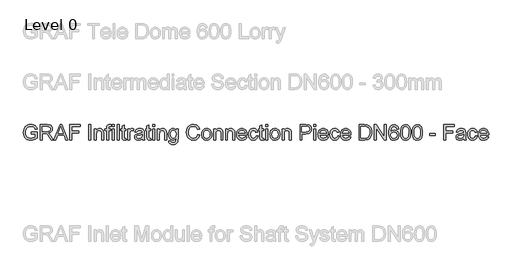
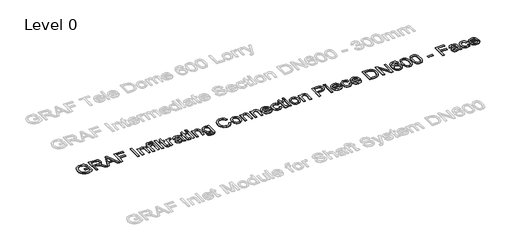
# One storey, part 16 of 25: 1 proxy.
"""IFC4 building model written with IfcOpenShell, lengths in millimetres."""

from ifc_helpers import new_model, si_unit, origin, origin_with_axes, place, context, project, spatial, polyline, outline, extrude, element, save

model = new_model("IFC4")

# Units and contexts
model_context = context("Model", 3, world=origin())
ifc_project = project(units=[si_unit("LENGTHUNIT", "METRE", prefix="MILLI")], contexts=[model_context])

# Site, building, storey
site = spatial("IfcSite", under=ifc_project)
building = spatial("IfcBuilding", under=site)
storey = spatial("IfcBuildingStorey", under=building, Name="Level 0", Elevation=0.0)

# Proxy
placement = place(None, origin())
element("IfcBuildingElementProxy", 1, Name="300mm Arial", ObjectType="300mm Arial", at=placement, inside=storey, context=model_context, shape_type="SweptSolid", body=[
    extrude(outline(polyline([(-15240.9940387, 2916.7454403), (-15240.9940387, 2954.4165566), (-15118.5629107, 2954.4165566), (-15118.5629107, 2841.7710897), (-15148.3153671, 2821.0777274), (-15179.0059225, 2806.2336889), (-15210.5610007, 2797.2941564), (-15242.9070251, 2794.3143123), (-15285.1674693, 2799.050793), (-15323.3628175, 2813.260235), (-15355.0926395, 2836.4459978), (-15377.9565055, 2868.1114405), (-15391.7796715, 2906.0952565), (-15396.3873935, 2948.2361391), (-15391.7980656, 2990.6805243), (-15378.0300819, 3030.1634594), (-15355.6536596, 3063.282036), (-15325.2390156, 3086.6333457), (-15288.1932987, 3100.4841028), (-15245.9236575, 3105.1010218), (-15214.8928112, 3102.4246803), (-15186.9889618, 3094.3956557), (-15163.4904994, 3081.5933623), (-15145.6758138, 3064.5972141), (-15132.4964413, 3042.5886738), (-15122.9039183, 3014.7492038), (-15157.6319786, 3004.9635427), (-15165.3850917, 3024.8199734), (-15174.8120678, 3039.8019677), (-15187.2832674, 3051.0959449), (-15204.169051, 3059.8883246), (-15224.3013932, 3065.5445103), (-15246.5122687, 3067.4299055), (-15272.5123287, 3065.3973575), (-15294.7415982, 3059.2997134), (-15313.1173039, 3049.9003284), (-15327.5566722, 3037.9625577), (-15346.9440533, 3008.9366683), (-15355.7732212, 2980.49939), (-15358.7162772, 2949.7812434), (-15355.175413, 2913.7563991), (-15344.5528204, 2884.1143073), (-15327.1703961, 2861.0665003), (-15303.3500369, 2844.8245102), (-15275.4737787, 2835.195199), (-15245.9236575, 2831.9854286), (-15219.831627, 2834.4042527), (-15194.3833899, 2841.6607251), (-15172.2828791, 2851.6579183), (-15156.234027, 2862.298905), (-15156.234027, 2916.7454403), (-15240.9940387, 2916.7454403)])), origin_with_axes(), (0.0, 0.0, 1.0), 10.0),
    extrude(outline(polyline([(-15057.3473467, 2799.0232018), (-15057.3473467, 3100.3921323), (-14927.4850024, 3100.3921323), (-14892.5821982, 3098.3595842), (-14867.1891434, 3092.2619402), (-14848.6294968, 3081.0047511), (-14834.2269167, 3063.4935682), (-14824.9838815, 3041.7793334), (-14821.9028698, 3017.912989), (-14827.0072325, 2988.2249119), (-14842.3203206, 2963.6136065), (-14853.9200997, 2953.5842236), (-14868.3019865, 2945.5689946), (-14905.4120827, 2935.5809984), (-14884.0013506, 2919.467767), (-14853.467145, 2880.6930048), (-14803.2144645, 2799.0232018), (-14846.9924219, 2799.0232018), (-14886.2086426, 2861.4895646), (-14914.5355562, 2902.8395009), (-14934.4379722, 2922.3740348), (-14952.3538253, 2929.5477337), (-14974.2060158, 2930.8721089), (-15019.6762304, 2930.8721089), (-15019.6762304, 2799.0232018), (-15057.3473467, 2799.0232018)]), holes=[polyline([(-15019.6762304, 2968.5432252), (-14935.3576771, 2968.5432252), (-14911.1418448, 2969.8767974), (-14892.3522719, 2973.8775141), (-14878.2072092, 2980.8120897), (-14867.9249074, 2990.9472387), (-14861.6617165, 3003.2069062), (-14859.5739861, 3016.5150374), (-14863.5563087, 3034.890743), (-14875.5032765, 3049.6979933), (-14896.058683, 3059.4652603), (-14925.8663217, 3062.721016), (-15019.6762304, 3062.721016), (-15019.6762304, 2968.5432252)])]), origin_with_axes(), (0.0, 0.0, 1.0), 10.0),
    extrude(outline(polyline([(-14791.0743586, 2799.0232018), (-14670.7769462, 3100.3921323), (-14638.6976362, 3100.3921323), (-14518.4002238, 2799.0232018), (-14558.2050557, 2799.0232018), (-14592.7123868, 2893.2009926), (-14716.835772, 2893.2009926), (-14751.2695268, 2799.0232018), (-14791.0743586, 2799.0232018)]), holes=[polyline([(-14703.003409, 2930.8721089), (-14606.4711735, 2930.8721089), (-14633.6208647, 3004.9635427), (-14654.7372912, 3062.721016), (-14673.499273, 3011.4382658), (-14703.003409, 2930.8721089)])]), origin_with_axes(), (0.0, 0.0, 1.0), 10.0),
    extrude(outline(polyline([(-14478.1539335, 2799.0232018), (-14478.1539335, 3100.3921323), (-14275.6716834, 3100.3921323), (-14275.6716834, 3062.721016), (-14440.4828172, 3062.721016), (-14440.4828172, 2973.2521147), (-14299.2161311, 2973.2521147), (-14299.2161311, 2935.5809984), (-14440.4828172, 2935.5809984), (-14440.4828172, 2799.0232018), (-14478.1539335, 2799.0232018)])), origin_with_axes(), (0.0, 0.0, 1.0), 10.0),
    extrude(outline(polyline([(-14101.4427705, 2799.0232018), (-14101.4427705, 3100.3921323), (-14063.7716542, 3100.3921323), (-14063.7716542, 2799.0232018), (-14101.4427705, 2799.0232018)])), origin_with_axes(), (0.0, 0.0, 1.0), 10.0),
    extrude(outline(polyline([(-13993.1383111, 2799.0232018), (-13993.1383111, 3020.3410101), (-13955.4671948, 3020.3410101), (-13955.4671948, 2989.4389225), (-13942.3797928, 3005.018725), (-13926.6620346, 3016.1471554), (-13908.3139201, 3022.8242136), (-13887.3354493, 3025.0498997), (-13868.7666056, 3023.2564749), (-13851.7612603, 3017.8762008), (-13837.5794094, 3009.5804618), (-13827.4810487, 2999.0406426), (-13816.1870714, 2971.3391284), (-13814.2005086, 2934.9188108), (-13814.2005086, 2799.0232018), (-13851.8716249, 2799.0232018), (-13851.8716249, 2929.8420393), (-13856.2126325, 2963.1721481), (-13862.2183061, 2973.0957649), (-13871.5533117, 2980.7936956), (-13883.5186736, 2985.7325114), (-13897.415416, 2987.3787834), (-13919.4791386, 2983.6815693), (-13938.2871056, 2972.5899271), (-13945.8033946, 2963.5354315), (-13951.1721725, 2951.1608009), (-13955.4671948, 2916.4511347), (-13955.4671948, 2799.0232018), (-13993.1383111, 2799.0232018)])), origin_with_axes(), (0.0, 0.0, 1.0), 10.0),
    extrude(outline(polyline([(-13752.9849446, 2799.0232018), (-13752.9849446, 2982.6698938), (-13785.9471714, 2982.6698938), (-13785.9471714, 3020.3410101), (-13752.9849446, 3020.3410101), (-13752.9849446, 3042.634659), (-13749.0118191, 3074.0517814), (-13741.43345, 3086.5781634), (-13729.7348025, 3096.4925831), (-13713.3640538, 3102.9489121), (-13691.7693806, 3105.1010218), (-13657.4092023, 3100.9807435), (-13662.9274322, 3065.6640719), (-13684.6324699, 3067.4299055), (-13698.9522766, 3065.866407), (-13708.3608586, 3061.1759116), (-13713.5755859, 3052.217985), (-13715.3138283, 3037.8521931), (-13715.3138283, 3020.3410101), (-13672.9338225, 3020.3410101), (-13672.9338225, 2982.6698938), (-13715.3138283, 2982.6698938), (-13715.3138283, 2799.0232018), (-13752.9849446, 2799.0232018)])), origin_with_axes(), (0.0, 0.0, 1.0), 10.0),
    extrude(outline(polyline([(-13639.9715957, 3062.721016), (-13639.9715957, 3100.3921323), (-13602.3004794, 3100.3921323), (-13602.3004794, 3062.721016), (-13639.9715957, 3062.721016)])), origin_with_axes(), (0.0, 0.0, 1.0), 10.0),
    extrude(outline(polyline([(-13639.9715957, 2799.0232018), (-13639.9715957, 3020.3410101), (-13602.3004794, 3020.3410101), (-13602.3004794, 2799.0232018), (-13639.9715957, 2799.0232018)])), origin_with_axes(), (0.0, 0.0, 1.0), 10.0),
    extrude(outline(polyline([(-13545.793805, 2799.0232018), (-13545.793805, 3100.3921323), (-13508.1226887, 3100.3921323), (-13508.1226887, 2799.0232018), (-13545.793805, 2799.0232018)])), origin_with_axes(), (0.0, 0.0, 1.0), 10.0),
    extrude(outline(polyline([(-13371.564892, 2830.4403242), (-13366.8560025, 2797.9195558), (-13395.0357633, 2794.3143123), (-13413.1171634, 2795.8778108), (-13426.6000385, 2800.5683062), (-13436.1281822, 2807.7971874), (-13442.3453879, 2816.9758432), (-13445.7666905, 2832.7395867), (-13446.9071247, 2859.723731), (-13446.9071247, 2982.6698938), (-13475.1604619, 2982.6698938), (-13475.1604619, 3020.3410101), (-13446.9071247, 3020.3410101), (-13446.9071247, 3074.1253578), (-13409.2360084, 3096.2718539), (-13409.2360084, 3020.3410101), (-13371.564892, 3020.3410101), (-13371.564892, 2982.6698938), (-13409.2360084, 2982.6698938), (-13409.2360084, 2860.827377), (-13407.2494456, 2841.4032077), (-13400.8115107, 2834.5238144), (-13387.972429, 2831.9854286), (-13371.564892, 2830.4403242)])), origin_with_axes(), (0.0, 0.0, 1.0), 10.0),
    extrude(outline(polyline([(-13333.8937757, 2799.0232018), (-13333.8937757, 3020.3410101), (-13300.931549, 3020.3410101), (-13300.931549, 2987.5995125), (-13288.7546549, 3006.5822235), (-13277.5342541, 3017.7658362), (-13266.277065, 3023.2288838), (-13253.9898064, 3025.0498997), (-13235.2278246, 3022.1436319), (-13216.1715373, 3013.4248286), (-13228.7531015, 2979.6532615), (-13241.9968533, 2985.4474029), (-13255.2406052, 2987.3787834), (-13266.4885972, 2985.5209793), (-13276.5409727, 2979.947567), (-13284.6619677, 2971.081611), (-13290.1158183, 2959.3461753), (-13294.6959492, 2938.3033252), (-13296.2226594, 2915.3474887), (-13296.2226594, 2799.0232018), (-13333.8937757, 2799.0232018)])), origin_with_axes(), (0.0, 0.0, 1.0), 10.0),
    extrude(outline(polyline([(-13051.3604034, 2827.2765391), (-13069.3590301, 2811.8438894), (-13087.8910856, 2801.7455286), (-13107.3796343, 2796.1721164), (-13128.2477404, 2794.3143123), (-13159.7292422, 2798.7840785), (-13182.9517931, 2812.1933772), (-13197.2715998, 2832.5556457), (-13202.0448687, 2857.8843211), (-13200.2422469, 2873.5009117), (-13194.8343816, 2887.6827627), (-13186.4926573, 2899.8228685), (-13175.8884588, 2909.314224), (-13149.5113198, 2921.675059), (-13116.916975, 2927.3404417), (-13078.3997301, 2933.3001301), (-13051.5811326, 2940.289888), (-13051.3604034, 2948.6775975), (-13053.9539715, 2965.4898046), (-13061.7346757, 2976.4894763), (-13079.1354941, 2984.6564566), (-13103.3789176, 2987.3787834), (-13125.8197193, 2985.5669645), (-13141.4914923, 2980.131508), (-13152.1784642, 2970.0791325), (-13159.6648628, 2954.4165566), (-13197.3359791, 2959.1254461), (-13190.7968767, 2979.7268379), (-13181.0388067, 2995.9136456), (-13167.1512614, 3008.2928748), (-13148.2237328, 3017.4715306), (-13125.0747582, 3023.1553074), (-13098.5228752, 3025.0498997), (-13073.0562441, 3023.3760366), (-13052.8687196, 3018.3544473), (-13037.6476021, 3010.8036694), (-13027.0801918, 3001.5422402), (-13020.0720398, 2990.0919131), (-13015.5286971, 2975.9744415), (-13013.6892871, 2943.0122147), (-13013.6892871, 2896.1440485), (-13011.7763008, 2830.6978416), (-13004.2715081, 2799.0232018), (-13041.9426244, 2799.0232018), (-13051.3604034, 2827.2765391)]), holes=[polyline([(-13051.3604034, 2902.6187717), (-13112.134509, 2891.067277), (-13144.5449128, 2884.9604359), (-13159.2234044, 2875.027622), (-13164.3737524, 2860.5330714), (-13161.5686521, 2849.3310647), (-13153.1533515, 2840.1524089), (-13139.3117914, 2834.0271737), (-13120.2279129, 2831.9854286), (-13099.9944032, 2834.2387058), (-13082.1153382, 2840.9985375), (-13067.6207876, 2850.9589425), (-13057.540821, 2862.8139398), (-13053.0710547, 2875.027622), (-13051.5811326, 2891.9501938), (-13051.3604034, 2902.6187717)])]), origin_with_axes(), (0.0, 0.0, 1.0), 10.0),
    extrude(outline(polyline([(-12881.8403801, 2830.4403242), (-12877.1314905, 2797.9195558), (-12905.3112514, 2794.3143123), (-12923.3926514, 2795.8778108), (-12936.8755265, 2800.5683062), (-12946.4036702, 2807.7971874), (-12952.6208759, 2816.9758432), (-12956.0421785, 2832.7395867), (-12957.1826127, 2859.723731), (-12957.1826127, 2982.6698938), (-12985.4359499, 2982.6698938), (-12985.4359499, 3020.3410101), (-12957.1826127, 3020.3410101), (-12957.1826127, 3074.1253578), (-12919.5114964, 3096.2718539), (-12919.5114964, 3020.3410101), (-12881.8403801, 3020.3410101), (-12881.8403801, 2982.6698938), (-12919.5114964, 2982.6698938), (-12919.5114964, 2860.827377), (-12917.5249336, 2841.4032077), (-12911.0869987, 2834.5238144), (-12898.2479171, 2831.9854286), (-12881.8403801, 2830.4403242)])), origin_with_axes(), (0.0, 0.0, 1.0), 10.0),
    extrude(outline(polyline([(-12844.1692638, 3062.721016), (-12844.1692638, 3100.3921323), (-12806.4981475, 3100.3921323), (-12806.4981475, 3062.721016), (-12844.1692638, 3062.721016)])), origin_with_axes(), (0.0, 0.0, 1.0), 10.0),
    extrude(outline(polyline([(-12844.1692638, 2799.0232018), (-12844.1692638, 3020.3410101), (-12806.4981475, 3020.3410101), (-12806.4981475, 2799.0232018), (-12844.1692638, 2799.0232018)])), origin_with_axes(), (0.0, 0.0, 1.0), 10.0),
    extrude(outline(polyline([(-12749.991473, 2799.0232018), (-12749.991473, 3020.3410101), (-12712.3203567, 3020.3410101), (-12712.3203567, 2989.4389225), (-12699.2329547, 3005.018725), (-12683.5151965, 3016.1471554), (-12665.167082, 3022.8242136), (-12644.1886112, 3025.0498997), (-12625.6197675, 3023.2564749), (-12608.6144222, 3017.8762008), (-12594.4325713, 3009.5804618), (-12584.3342106, 2999.0406426), (-12573.0402333, 2971.3391284), (-12571.0536705, 2934.9188108), (-12571.0536705, 2799.0232018), (-12608.7247868, 2799.0232018), (-12608.7247868, 2929.8420393), (-12613.0657944, 2963.1721481), (-12619.071468, 2973.0957649), (-12628.4064736, 2980.7936956), (-12640.3718355, 2985.7325114), (-12654.2685778, 2987.3787834), (-12676.3323005, 2983.6815693), (-12695.1402675, 2972.5899271), (-12702.6565565, 2963.5354315), (-12708.0253344, 2951.1608009), (-12712.3203567, 2916.4511347), (-12712.3203567, 2799.0232018), (-12749.991473, 2799.0232018)])), origin_with_axes(), (0.0, 0.0, 1.0), 10.0),
    extrude(outline(polyline([(-12528.6736647, 2780.1876437), (-12491.0025484, 2775.4787541), (-12486.8454818, 2763.7065303), (-12478.7888662, 2755.6131264), (-12462.9515463, 2749.3223443), (-12442.2213958, 2747.2254169), (-12420.1116879, 2749.5982558), (-12403.6673627, 2756.7167724), (-12392.2630209, 2768.1211142), (-12385.273263, 2783.3514288), (-12382.698089, 2827.2765391), (-12395.233668, 2814.915704), (-12409.2223809, 2806.0865361), (-12424.6642276, 2800.7890354), (-12441.5592082, 2799.0232018), (-12462.213483, 2801.0787425), (-12480.3983499, 2807.2453644), (-12496.1138089, 2817.5230677), (-12509.3598599, 2831.9118522), (-12519.8697887, 2849.1747148), (-12527.3768807, 2868.0746523), (-12531.8811358, 2888.6116647), (-12533.3825542, 2910.785752), (-12530.6878186, 2941.2003959), (-12522.6036118, 2969.1686246), (-12509.4150422, 2992.8694221), (-12491.4072186, 3010.4817726), (-12469.1963431, 3021.4078679), (-12443.3986182, 3025.0498997), (-12425.7816692, 3022.9897605), (-12409.792598, 3016.809343), (-12395.4314046, 3006.5086471), (-12382.698089, 2992.0876729), (-12382.698089, 3020.3410101), (-12345.0269727, 3020.3410101), (-12345.0269727, 2829.2631018), (-12347.6021467, 2785.1448536), (-12355.3276686, 2756.091373), (-12368.6357997, 2736.8235535), (-12387.9588015, 2722.0622884), (-12412.8736097, 2712.6812976), (-12442.9571598, 2709.5543006), (-12478.0071169, 2713.9596875), (-12505.6074636, 2727.1758482), (-12516.0024292, 2737.0971657), (-12523.3117846, 2749.2395708), (-12527.5355298, 2763.6030635), (-12528.6736647, 2780.1876437)]), holes=[polyline([(-12495.7114379, 2913.3609259), (-12491.6923271, 2878.8076095), (-12479.6349947, 2855.0516297), (-12461.5076094, 2841.283646), (-12439.2783399, 2836.6943181), (-12417.2146172, 2841.2560549), (-12398.9952614, 2854.9412651), (-12386.7723821, 2878.3937423), (-12382.698089, 2912.2572799), (-12386.8919438, 2944.9160041), (-12399.473508, 2968.4328606), (-12417.9595782, 2982.6423027), (-12439.8669511, 2987.3787834), (-12461.3788507, 2982.7158791), (-12479.4142655, 2968.7271662), (-12491.6371448, 2945.5597976), (-12495.7114379, 2913.3609259)])]), origin_with_axes(), (0.0, 0.0, 1.0), 10.0),
    extrude(outline(polyline([(-11954.189141, 2906.1504388), (-11916.5180247, 2896.4383541), (-11923.9722336, 2873.0111688), (-11933.900449, 2852.5408351), (-11946.3026708, 2835.0273528), (-11961.1788989, 2820.4707221), (-11978.1934412, 2809.0272928), (-11997.0106053, 2800.8534147), (-12017.6303911, 2795.9490879), (-12040.0527987, 2794.3143123), (-12083.7479827, 2799.2623251), (-12118.4484519, 2814.1063636), (-12145.0463201, 2838.331393), (-12164.4337013, 2871.4223785), (-12176.2703045, 2910.3258995), (-12180.2158389, 2951.9885354), (-12175.7552697, 2995.9320397), (-12162.3735621, 3033.8790675), (-12140.7696919, 3064.6248053), (-12111.642635, 3086.9644394), (-12077.0985156, 3100.5668762), (-12039.2434583, 3105.1010218), (-11997.9395073, 3099.233304), (-11979.9707711, 3091.8986567), (-11963.7908611, 3081.6301505), (-11949.6664918, 3068.6990984), (-11937.8643775, 3053.3768133), (-11921.2269143, 3015.5585442), (-11958.8980306, 3006.5822235), (-11971.9578414, 3034.0538115), (-11989.8001182, 3052.8985667), (-12012.6455901, 3063.7970708), (-12040.7149863, 3067.4299055), (-12073.0702078, 3063.4015977), (-12099.6496819, 3051.3166741), (-12119.8188123, 3032.4443278), (-12132.9430025, 3008.0537515), (-12140.1442925, 2980.4809959), (-12142.5447226, 2952.0621118), (-12139.7028341, 2917.2604751), (-12131.1771689, 2887.1677279), (-12116.6458301, 2862.9335014), (-12095.786921, 2845.707427), (-12070.7801423, 2835.4159282), (-12043.8051951, 2831.9854286), (-12012.3604815, 2836.6575299), (-11986.1580864, 2850.6738339), (-11966.3752321, 2873.8871878), (-11954.189141, 2906.1504388)])), origin_with_axes(), (0.0, 0.0, 1.0), 10.0),
    extrude(outline(polyline([(-11878.8469084, 2909.682106), (-11876.8097619, 2938.3447119), (-11870.6983222, 2963.0433894), (-11860.5125895, 2983.7781383), (-11846.2525636, 3000.5489588), (-11831.8959688, 3011.2681204), (-11816.0494518, 3018.9246644), (-11798.7130128, 3023.5185909), (-11779.8866517, 3025.0498997), (-11759.1036182, 3023.1851978), (-11740.3117461, 3017.5910922), (-11723.5110352, 3008.2675829), (-11708.7014856, 2995.2146698), (-11696.6142628, 2978.8738115), (-11687.9805323, 2959.6864662), (-11682.8002939, 2937.6526339), (-11681.0735478, 2912.7723147), (-11684.1269684, 2874.7149223), (-11693.28723, 2845.7442152), (-11708.2876184, 2824.0483745), (-11728.861419, 2807.8155815), (-11753.2979805, 2797.6896296), (-11779.8866517, 2794.3143123), (-11800.9731878, 2796.1721164), (-11819.9398039, 2801.7455286), (-11836.7865001, 2811.034549), (-11851.5132762, 2824.0391775), (-11863.4717403, 2840.538685), (-11872.0135004, 2860.3123422), (-11877.1385564, 2883.3601492), (-11878.8469084, 2909.682106)]), holes=[polyline([(-11841.1757921, 2909.7556824), (-11836.8163905, 2875.6622185), (-11823.7381855, 2851.3728097), (-11804.0564988, 2836.8322739), (-11779.8866517, 2831.9854286), (-11755.8271692, 2836.859865), (-11736.1822707, 2851.4831743), (-11723.1040658, 2876.0944798), (-11718.7446641, 2910.9329048), (-11723.1316569, 2944.0330873), (-11736.2926353, 2967.9914022), (-11755.965125, 2982.5319381), (-11779.8866517, 2987.3787834), (-11804.0564988, 2982.5503322), (-11823.7381855, 2968.0649786), (-11836.8163905, 2943.8307522), (-11841.1757921, 2909.7556824)])]), origin_with_axes(), (0.0, 0.0, 1.0), 10.0),
    extrude(outline(polyline([(-11638.693542, 2799.0232018), (-11638.693542, 3020.3410101), (-11601.0224257, 3020.3410101), (-11601.0224257, 2989.4389225), (-11587.9350237, 3005.018725), (-11572.2172654, 3016.1471554), (-11553.8691509, 3022.8242136), (-11532.8906802, 3025.0498997), (-11514.3218364, 3023.2564749), (-11497.3164912, 3017.8762008), (-11483.1346403, 3009.5804618), (-11473.0362795, 2999.0406426), (-11461.7423023, 2971.3391284), (-11459.7557395, 2934.9188108), (-11459.7557395, 2799.0232018), (-11497.4268558, 2799.0232018), (-11497.4268558, 2929.8420393), (-11501.7678634, 2963.1721481), (-11507.7735369, 2973.0957649), (-11517.1085426, 2980.7936956), (-11529.0739045, 2985.7325114), (-11542.9706468, 2987.3787834), (-11565.0343695, 2983.6815693), (-11583.8423365, 2972.5899271), (-11591.3586255, 2963.5354315), (-11596.7274034, 2951.1608009), (-11601.0224257, 2916.4511347), (-11601.0224257, 2799.0232018), (-11638.693542, 2799.0232018)])), origin_with_axes(), (0.0, 0.0, 1.0), 10.0),
    extrude(outline(polyline([(-11407.9579546, 2799.0232018), (-11407.9579546, 3020.3410101), (-11370.2868383, 3020.3410101), (-11370.2868383, 2989.4389225), (-11357.1994363, 3005.018725), (-11341.4816781, 3016.1471554), (-11323.1335636, 3022.8242136), (-11302.1550928, 3025.0498997), (-11283.5862491, 3023.2564749), (-11266.5809038, 3017.8762008), (-11252.3990529, 3009.5804618), (-11242.3006922, 2999.0406426), (-11231.0067149, 2971.3391284), (-11229.0201521, 2934.9188108), (-11229.0201521, 2799.0232018), (-11266.6912684, 2799.0232018), (-11266.6912684, 2929.8420393), (-11271.032276, 2963.1721481), (-11277.0379496, 2973.0957649), (-11286.3729552, 2980.7936956), (-11298.3383171, 2985.7325114), (-11312.2350594, 2987.3787834), (-11334.2987821, 2983.6815693), (-11353.1067491, 2972.5899271), (-11360.6230381, 2963.5354315), (-11365.991816, 2951.1608009), (-11370.2868383, 2916.4511347), (-11370.2868383, 2799.0232018), (-11407.9579546, 2799.0232018)])), origin_with_axes(), (0.0, 0.0, 1.0), 10.0),
    extrude(outline(polyline([(-11022.2704708, 2864.9476554), (-10985.3351185, 2860.2387658), (-10998.6432497, 2832.4084929), (-11019.8792379, 2811.6047661), (-11048.5648365, 2798.6369257), (-11084.2217988, 2794.3143123), (-11107.5961011, 2796.1790141), (-11128.4228206, 2801.7731197), (-11146.7019572, 2811.0966291), (-11162.433511, 2824.1495421), (-11175.0840531, 2840.5685754), (-11184.1201546, 2859.9904455), (-11189.5418155, 2882.4151523), (-11191.3490358, 2907.842696), (-11189.5234214, 2934.1324631), (-11184.0465782, 2957.3044302), (-11174.9185062, 2977.3585975), (-11162.1392054, 2994.2949649), (-11146.4490383, 3007.7502488), (-11128.5883675, 3017.361166), (-11108.5571928, 3023.1277162), (-11086.3555144, 3025.0498997), (-11064.8689066, 3023.1323148), (-11045.4378395, 3017.3795601), (-11028.062313, 3007.7916356), (-11012.7423272, 2994.3685413), (-11000.2366386, 2977.4689621), (-10991.3040039, 2957.451583), (-10985.9444231, 2934.3164041), (-10984.1578961, 2908.0634252), (-10984.3786253, 2897.9098821), (-11153.6779195, 2897.9098821), (-11147.1572112, 2869.7117272), (-11132.00967, 2848.9815768), (-11110.1482824, 2836.2344656), (-11083.4860348, 2831.9854286), (-11063.4364661, 2833.9535973), (-11046.5506825, 2839.8581033), (-11032.8286841, 2850.0668287), (-11022.2704708, 2864.9476554)]), holes=[polyline([(-11153.6779195, 2935.5809984), (-11021.8290125, 2935.5809984), (-11026.9241781, 2955.4834144), (-11036.9121743, 2969.7204476), (-11058.8747294, 2982.9641994), (-11086.5026672, 2987.3787834), (-11111.8957219, 2983.8563132), (-11132.8925868, 2973.2889029), (-11147.488305, 2956.8169866), (-11153.6779195, 2935.5809984)])]), origin_with_axes(), (0.0, 0.0, 1.0), 10.0),
    extrude(outline(polyline([(-10805.2200937, 2879.074324), (-10767.5489774, 2874.3654344), (-10778.0520083, 2840.8605817), (-10797.7888774, 2815.5411034), (-10824.9017804, 2799.6210101), (-10857.5329134, 2794.3143123), (-10878.6608362, 2796.1652186), (-10897.6044597, 2801.7179374), (-10914.3637839, 2810.9724689), (-10928.9388087, 2823.9288129), (-10940.7363244, 2840.3432477), (-10949.1631214, 2859.9720514), (-10954.2191995, 2882.815224), (-10955.9045589, 2908.8727656), (-10953.0258823, 2942.3960124), (-10944.3898525, 2971.449493), (-10929.8585137, 2994.9111672), (-10909.2939101, 3011.658995), (-10884.6918017, 3021.7021735), (-10858.0479482, 3025.0498997), (-10826.2169586, 3020.4513747), (-10800.7687216, 3006.6557999), (-10782.5125775, 2984.3989392), (-10772.2578669, 2954.4165566), (-10809.9289832, 2949.707667), (-10816.7623913, 2966.1427952), (-10827.403378, 2977.9242161), (-10841.2633322, 2985.0151415), (-10857.7536426, 2987.3787834), (-10882.0982336, 2982.7250761), (-10901.4212354, 2968.7639544), (-10914.0303908, 2944.7412601), (-10918.2334426, 2909.9028352), (-10914.1223613, 2874.5953607), (-10901.7891174, 2850.4898929), (-10882.8156035, 2836.6115447), (-10858.7837122, 2831.9854286), (-10839.2767694, 2834.8733023), (-10823.2830997, 2843.5369232), (-10811.6488316, 2858.1970207), (-10805.2200937, 2879.074324)])), origin_with_axes(), (0.0, 0.0, 1.0), 10.0),
    extrude(outline(polyline([(-10654.5356285, 2830.4403242), (-10649.8267389, 2797.9195558), (-10678.0064998, 2794.3143123), (-10696.0878998, 2795.8778108), (-10709.5707749, 2800.5683062), (-10719.0989186, 2807.7971874), (-10725.3161243, 2816.9758432), (-10728.7374269, 2832.7395867), (-10729.8778611, 2859.723731), (-10729.8778611, 2982.6698938), (-10758.1311983, 2982.6698938), (-10758.1311983, 3020.3410101), (-10729.8778611, 3020.3410101), (-10729.8778611, 3074.1253578), (-10692.2067448, 3096.2718539), (-10692.2067448, 3020.3410101), (-10654.5356285, 3020.3410101), (-10654.5356285, 2982.6698938), (-10692.2067448, 2982.6698938), (-10692.2067448, 2860.827377), (-10690.220182, 2841.4032077), (-10683.7822471, 2834.5238144), (-10670.9431655, 2831.9854286), (-10654.5356285, 2830.4403242)])), origin_with_axes(), (0.0, 0.0, 1.0), 10.0),
    extrude(outline(polyline([(-10616.8645122, 3062.721016), (-10616.8645122, 3100.3921323), (-10579.1933959, 3100.3921323), (-10579.1933959, 3062.721016), (-10616.8645122, 3062.721016)])), origin_with_axes(), (0.0, 0.0, 1.0), 10.0),
    extrude(outline(polyline([(-10616.8645122, 2799.0232018), (-10616.8645122, 3020.3410101), (-10579.1933959, 3020.3410101), (-10579.1933959, 2799.0232018), (-10616.8645122, 2799.0232018)])), origin_with_axes(), (0.0, 0.0, 1.0), 10.0),
    extrude(outline(polyline([(-10532.1045005, 2909.682106), (-10530.0673539, 2938.3447119), (-10523.9559143, 2963.0433894), (-10513.7701815, 2983.7781383), (-10499.5101557, 3000.5489588), (-10485.1535608, 3011.2681204), (-10469.3070439, 3018.9246644), (-10451.9706049, 3023.5185909), (-10433.1442438, 3025.0498997), (-10412.3612103, 3023.1851978), (-10393.5693381, 3017.5910922), (-10376.7686273, 3008.2675829), (-10361.9590777, 2995.2146698), (-10349.8718549, 2978.8738115), (-10341.2381243, 2959.6864662), (-10336.057886, 2937.6526339), (-10334.3311399, 2912.7723147), (-10337.3845604, 2874.7149223), (-10346.5448221, 2845.7442152), (-10361.5452105, 2824.0483745), (-10382.119011, 2807.8155815), (-10406.5555726, 2797.6896296), (-10433.1442438, 2794.3143123), (-10454.2307799, 2796.1721164), (-10473.197396, 2801.7455286), (-10490.0440921, 2811.034549), (-10504.7708682, 2824.0391775), (-10516.7293323, 2840.538685), (-10525.2710924, 2860.3123422), (-10530.3961485, 2883.3601492), (-10532.1045005, 2909.682106)]), holes=[polyline([(-10494.4333842, 2909.7556824), (-10490.0739825, 2875.6622185), (-10476.9957776, 2851.3728097), (-10457.3140909, 2836.8322739), (-10433.1442438, 2831.9854286), (-10409.0847613, 2836.859865), (-10389.4398627, 2851.4831743), (-10376.3616578, 2876.0944798), (-10372.0022562, 2910.9329048), (-10376.389249, 2944.0330873), (-10389.5502273, 2967.9914022), (-10409.222717, 2982.5319381), (-10433.1442438, 2987.3787834), (-10457.3140909, 2982.5503322), (-10476.9957776, 2968.0649786), (-10490.0739825, 2943.8307522), (-10494.4333842, 2909.7556824)])]), origin_with_axes(), (0.0, 0.0, 1.0), 10.0),
    extrude(outline(polyline([(-10291.951134, 2799.0232018), (-10291.951134, 3020.3410101), (-10254.2800177, 3020.3410101), (-10254.2800177, 2989.4389225), (-10241.1926157, 3005.018725), (-10225.4748575, 3016.1471554), (-10207.126743, 3022.8242136), (-10186.1482722, 3025.0498997), (-10167.5794285, 3023.2564749), (-10150.5740833, 3017.8762008), (-10136.3922324, 3009.5804618), (-10126.2938716, 2999.0406426), (-10114.9998943, 2971.3391284), (-10113.0133316, 2934.9188108), (-10113.0133316, 2799.0232018), (-10150.6844479, 2799.0232018), (-10150.6844479, 2929.8420393), (-10155.0254554, 2963.1721481), (-10161.031129, 2973.0957649), (-10170.3661346, 2980.7936956), (-10182.3314965, 2985.7325114), (-10196.2282389, 2987.3787834), (-10218.2919615, 2983.6815693), (-10237.0999285, 2972.5899271), (-10244.6162176, 2963.5354315), (-10249.9849954, 2951.1608009), (-10254.2800177, 2916.4511347), (-10254.2800177, 2799.0232018), (-10291.951134, 2799.0232018)])), origin_with_axes(), (0.0, 0.0, 1.0), 10.0),
    extrude(outline(polyline([(-9938.7844187, 2799.0232018), (-9938.7844187, 3100.3921323), (-9827.0954449, 3100.3921323), (-9782.0666887, 3097.5226527), (-9761.9895288, 3092.1607726), (-9745.4624302, 3083.4327723), (-9732.154299, 3070.9431786), (-9721.7340415, 3054.2965183), (-9715.001801, 3034.6608168), (-9712.7577208, 3013.2040994), (-9714.2729348, 2994.7042336), (-9718.8185767, 2977.6850928), (-9726.3946465, 2962.146677), (-9737.0011443, 2948.0889863), (-9751.5623735, 2936.4363241), (-9771.0026377, 2928.1129939), (-9795.3219368, 2923.1189958), (-9824.5202709, 2921.4543298), (-9901.1133023, 2921.4543298), (-9901.1133023, 2799.0232018), (-9938.7844187, 2799.0232018)]), holes=[polyline([(-9901.1133023, 2959.1254461), (-9822.312979, 2959.1254461), (-9788.9092938, 2962.5835369), (-9766.8363741, 2972.9578091), (-9754.5307214, 2989.6044694), (-9750.4288371, 3011.8797242), (-9752.8476612, 3028.802296), (-9760.1041336, 3043.0761174), (-9771.2969433, 3053.8182717), (-9785.5247795, 3060.145842), (-9823.1958958, 3062.721016), (-9901.1133023, 3062.721016), (-9901.1133023, 2959.1254461)])]), origin_with_axes(), (0.0, 0.0, 1.0), 10.0),
    extrude(outline(polyline([(-9665.6688254, 3062.721016), (-9665.6688254, 3100.3921323), (-9627.9977091, 3100.3921323), (-9627.9977091, 3062.721016), (-9665.6688254, 3062.721016)])), origin_with_axes(), (0.0, 0.0, 1.0), 10.0),
    extrude(outline(polyline([(-9665.6688254, 2799.0232018), (-9665.6688254, 3020.3410101), (-9627.9977091, 3020.3410101), (-9627.9977091, 2799.0232018), (-9665.6688254, 2799.0232018)])), origin_with_axes(), (0.0, 0.0, 1.0), 10.0),
    extrude(outline(polyline([(-9416.5391383, 2864.9476554), (-9379.603786, 2860.2387658), (-9392.9119172, 2832.4084929), (-9414.1479053, 2811.6047661), (-9442.8335039, 2798.6369257), (-9478.4904663, 2794.3143123), (-9501.8647686, 2796.1790141), (-9522.691488, 2801.7731197), (-9540.9706246, 2811.0966291), (-9556.7021785, 2824.1495421), (-9569.3527206, 2840.5685754), (-9578.3888221, 2859.9904455), (-9583.810483, 2882.4151523), (-9585.6177033, 2907.842696), (-9583.7920889, 2934.1324631), (-9578.3152457, 2957.3044302), (-9569.1871737, 2977.3585975), (-9556.4078729, 2994.2949649), (-9540.7177058, 3007.7502488), (-9522.8570349, 3017.361166), (-9502.8258603, 3023.1277162), (-9480.6241819, 3025.0498997), (-9459.1375741, 3023.1323148), (-9439.7065069, 3017.3795601), (-9422.3309805, 3007.7916356), (-9407.0109946, 2994.3685413), (-9394.5053061, 2977.4689621), (-9385.5726714, 2957.451583), (-9380.2130905, 2934.3164041), (-9378.4265636, 2908.0634252), (-9378.6472928, 2897.9098821), (-9547.946587, 2897.9098821), (-9541.4258786, 2869.7117272), (-9526.2783375, 2848.9815768), (-9504.4169499, 2836.2344656), (-9477.7547023, 2831.9854286), (-9457.7051336, 2833.9535973), (-9440.81935, 2839.8581033), (-9427.0973516, 2850.0668287), (-9416.5391383, 2864.9476554)]), holes=[polyline([(-9547.946587, 2935.5809984), (-9416.0976799, 2935.5809984), (-9421.1928455, 2955.4834144), (-9431.1808417, 2969.7204476), (-9453.1433968, 2982.9641994), (-9480.7713347, 2987.3787834), (-9506.1643894, 2983.8563132), (-9527.1612542, 2973.2889029), (-9541.7569724, 2956.8169866), (-9547.946587, 2935.5809984)])]), origin_with_axes(), (0.0, 0.0, 1.0), 10.0),
    extrude(outline(polyline([(-9199.4887611, 2879.074324), (-9161.8176448, 2874.3654344), (-9172.3206758, 2840.8605817), (-9192.0575448, 2815.5411034), (-9219.1704479, 2799.6210101), (-9251.8015809, 2794.3143123), (-9272.9295037, 2796.1652186), (-9291.8731272, 2801.7179374), (-9308.6324513, 2810.9724689), (-9323.2074761, 2823.9288129), (-9335.0049919, 2840.3432477), (-9343.4317888, 2859.9720514), (-9348.487867, 2882.815224), (-9350.1732264, 2908.8727656), (-9347.2945498, 2942.3960124), (-9338.6585199, 2971.449493), (-9324.1271811, 2994.9111672), (-9303.5625776, 3011.658995), (-9278.9604692, 3021.7021735), (-9252.3166157, 3025.0498997), (-9220.485626, 3020.4513747), (-9195.037389, 3006.6557999), (-9176.781245, 2984.3989392), (-9166.5265344, 2954.4165566), (-9204.1976507, 2949.707667), (-9211.0310587, 2966.1427952), (-9221.6720455, 2977.9242161), (-9235.5319996, 2985.0151415), (-9252.0223101, 2987.3787834), (-9276.3669011, 2982.7250761), (-9295.6899029, 2968.7639544), (-9308.2990583, 2944.7412601), (-9312.5021101, 2909.9028352), (-9308.3910288, 2874.5953607), (-9296.0577849, 2850.4898929), (-9277.084271, 2836.6115447), (-9253.0523796, 2831.9854286), (-9233.5454368, 2834.8733023), (-9217.5517671, 2843.5369232), (-9205.917499, 2858.1970207), (-9199.4887611, 2879.074324)])), origin_with_axes(), (0.0, 0.0, 1.0), 10.0),
    extrude(outline(polyline([(-8973.9035217, 2864.9476554), (-8936.9681694, 2860.2387658), (-8950.2763006, 2832.4084929), (-8971.5122887, 2811.6047661), (-9000.1978873, 2798.6369257), (-9035.8548497, 2794.3143123), (-9059.229152, 2796.1790141), (-9080.0558714, 2801.7731197), (-9098.335008, 2811.0966291), (-9114.0665619, 2824.1495421), (-9126.717104, 2840.5685754), (-9135.7532055, 2859.9904455), (-9141.1748664, 2882.4151523), (-9142.9820867, 2907.842696), (-9141.1564723, 2934.1324631), (-9135.6796291, 2957.3044302), (-9126.5515571, 2977.3585975), (-9113.7722563, 2994.2949649), (-9098.0820892, 3007.7502488), (-9080.2214183, 3017.361166), (-9060.1902437, 3023.1277162), (-9037.9885653, 3025.0498997), (-9016.5019575, 3023.1323148), (-8997.0708903, 3017.3795601), (-8979.6953639, 3007.7916356), (-8964.375378, 2994.3685413), (-8951.8696895, 2977.4689621), (-8942.9370548, 2957.451583), (-8937.5774739, 2934.3164041), (-8935.790947, 2908.0634252), (-8936.0116762, 2897.9098821), (-9105.3109704, 2897.9098821), (-9098.790262, 2869.7117272), (-9083.6427209, 2848.9815768), (-9061.7813333, 2836.2344656), (-9035.1190857, 2831.9854286), (-9015.069517, 2833.9535973), (-8998.1837334, 2839.8581033), (-8984.461735, 2850.0668287), (-8973.9035217, 2864.9476554)]), holes=[polyline([(-9105.3109704, 2935.5809984), (-8973.4620633, 2935.5809984), (-8978.5572289, 2955.4834144), (-8988.5452251, 2969.7204476), (-9010.5077802, 2982.9641994), (-9038.1357181, 2987.3787834), (-9063.5287728, 2983.8563132), (-9084.5256377, 2973.2889029), (-9099.1213558, 2956.8169866), (-9105.3109704, 2935.5809984)])]), origin_with_axes(), (0.0, 0.0, 1.0), 10.0),
    extrude(outline(polyline([(-8775.6887027, 2799.0232018), (-8775.6887027, 3100.3921323), (-8671.7252509, 3100.3921323), (-8617.9409032, 3096.0511247), (-8593.9182089, 3087.6818093), (-8573.6479109, 3074.4932398), (-8552.8073959, 3051.5374033), (-8537.9633574, 3022.9897605), (-8529.0790072, 2989.4021343), (-8526.1175572, 2951.3263478), (-8528.122514, 2918.9803234), (-8534.1373847, 2890.515454), (-8543.2976463, 2866.2812276), (-8554.7387764, 2846.627132), (-8567.9089518, 2831.1117089), (-8582.2563496, 2819.2934998), (-8598.728266, 2810.5287112), (-8618.271997, 2804.1735498), (-8666.7220557, 2799.0232018), (-8775.6887027, 2799.0232018)]), holes=[polyline([(-8738.0175864, 2836.6943181), (-8671.3573689, 2836.6943181), (-8643.7846133, 2838.0554815), (-8622.8705219, 2842.1389717), (-8607.0883843, 2848.7056653), (-8594.9114903, 2857.5164391), (-8581.8240883, 2873.8228085), (-8571.992442, 2894.930038), (-8565.8396156, 2920.930098), (-8563.7886735, 2951.914959), (-8567.8077843, 2992.9705897), (-8579.8651167, 3023.2840661), (-8597.6798023, 3044.106187), (-8618.9709728, 3056.6877512), (-8640.6392223, 3061.2126998), (-8672.3874385, 3062.721016), (-8738.0175864, 3062.721016), (-8738.0175864, 2836.6943181)])]), origin_with_axes(), (0.0, 0.0, 1.0), 10.0),
    extrude(outline(polyline([(-8474.3197723, 2799.0232018), (-8474.3197723, 3100.3921323), (-8433.9999056, 3100.3921323), (-8276.5464116, 2861.6367174), (-8276.5464116, 3100.3921323), (-8238.8752953, 3100.3921323), (-8238.8752953, 2799.0232018), (-8279.195162, 2799.0232018), (-8436.6486559, 3037.8521931), (-8436.6486559, 2799.0232018), (-8474.3197723, 2799.0232018)])), origin_with_axes(), (0.0, 0.0, 1.0), 10.0),
    extrude(outline(polyline([(-7994.0130393, 3020.3410101), (-8031.6841557, 3015.6321206), (-8037.7542086, 3034.3021318), (-8045.9579771, 3047.049243), (-8063.0460957, 3058.8030727), (-8083.7026698, 3062.721016), (-8101.2138527, 3060.4401476), (-8117.6949661, 3053.5975425), (-8131.8492259, 3039.1857653), (-8143.4099176, 3019.3477287), (-8151.2182129, 2991.2875296), (-8154.1152837, 2952.2092646), (-8139.0045307, 2969.8400092), (-8120.8955395, 2982.2652236), (-8100.7999855, 2989.6320606), (-8079.7295442, 2992.0876729), (-8061.6297501, 2990.4092113), (-8044.9279075, 2985.3738265), (-8029.6240165, 2976.9815185), (-8015.7180771, 2965.2322872), (-8004.1619839, 2950.8251086), (-7995.9076316, 2934.4589583), (-7990.9550203, 2916.1338365), (-7989.3041498, 2895.849743), (-7992.4127527, 2868.8747957), (-8001.7385612, 2843.868017), (-8016.5090234, 2822.65962), (-8035.9515868, 2807.0798175), (-8059.1833348, 2797.5056886), (-8085.3213506, 2794.3143123), (-8107.7782471, 2796.4296338), (-8128.0600413, 2802.7755982), (-8146.1667333, 2813.3522055), (-8162.0983229, 2828.1594558), (-8175.0868566, 2847.8227485), (-8184.3643807, 2872.9674829), (-8189.9308951, 2903.593659), (-8191.7864, 2939.7012768), (-8189.7262608, 2980.1820918), (-8183.5458433, 3014.7308097), (-8173.2451474, 3043.3474304), (-8158.8241732, 3066.0319539), (-8143.1937869, 3081.0645319), (-8125.0710001, 3091.8020877), (-8104.4558128, 3098.2446211), (-8081.348225, 3100.3921323), (-8048.2940277, 3095.0762374), (-8021.8249182, 3079.1285529), (-8003.2836656, 3053.7998776), (-7994.0130393, 3020.3410101)]), holes=[polyline([(-8154.1152837, 2896.4383541), (-8151.9355828, 2879.7457086), (-8145.3964804, 2863.8072212), (-8135.2429373, 2850.1036169), (-8122.2199147, 2840.1156207), (-8106.5021564, 2834.0179766), (-8088.2644065, 2831.9854286), (-8063.4047807, 2836.1976774), (-8043.8610497, 2848.834424), (-8031.196712, 2868.7000517), (-8026.9752661, 2894.5989442), (-8031.1415297, 2919.45857), (-8043.6403205, 2938.4136898), (-8063.5151453, 2950.4158399), (-8089.8095109, 2954.4165566), (-8114.6323485, 2950.4158399), (-8135.3900901, 2938.4136898), (-8149.4339853, 2919.9184225), (-8154.1152837, 2896.4383541)])]), origin_with_axes(), (0.0, 0.0, 1.0), 10.0),
    extrude(outline(polyline([(-7956.341923, 2947.2796459), (-7953.573611, 2995.5181725), (-7945.268675, 3033.9894321), (-7931.5098884, 3063.282036), (-7912.3800246, 3083.9845953), (-7887.741128, 3096.290248), (-7857.4552427, 3100.3921323), (-7834.2418888, 3097.9641111), (-7813.4565561, 3090.6800476), (-7796.0741318, 3078.8250503), (-7783.0695033, 3062.6842278), (-7773.247054, 3042.3955357), (-7765.4111675, 3018.0969299), (-7760.2792137, 2987.2408276), (-7758.5685624, 2947.2796459), (-7761.3092833, 2899.3170308), (-7769.5314459, 2860.9377416), (-7783.2074591, 2831.6175466), (-7802.3097317, 2810.8322139), (-7827.0038106, 2798.4437877), (-7857.4552427, 2794.3143123), (-7878.2037873, 2796.107737), (-7896.597887, 2801.4880112), (-7912.637542, 2810.4551348), (-7926.3227522, 2823.0091079), (-7939.4561395, 2845.7028285), (-7948.8371303, 2873.9791583), (-7954.4657249, 2907.8380975), (-7956.341923, 2947.2796459)]), holes=[polyline([(-7918.6708067, 2947.3532223), (-7914.2562228, 2888.0966299), (-7908.7379929, 2867.8286312), (-7901.012471, 2853.8008309), (-7881.293996, 2837.4392792), (-7857.4552427, 2831.9854286), (-7833.6164895, 2837.4576733), (-7813.8980145, 2853.8744073), (-7806.1724926, 2867.9252003), (-7800.6542627, 2888.1886004), (-7796.2396787, 2947.3532223), (-7800.5071099, 3005.2762424), (-7805.8413988, 3025.4775625), (-7813.3094033, 3039.8387559), (-7832.9910901, 3057.0004509), (-7857.8967011, 3062.721016), (-7881.477937, 3057.6810326), (-7900.4238598, 3042.5610826), (-7908.4068991, 3026.9260978), (-7914.10907, 3005.8464595), (-7918.6708067, 2947.3532223)])]), origin_with_axes(), (0.0, 0.0, 1.0), 10.0),
    extrude(outline(polyline([(-7725.6063357, 2947.2796459), (-7722.8380237, 2995.5181725), (-7714.5330876, 3033.9894321), (-7700.774301, 3063.282036), (-7681.6444372, 3083.9845953), (-7657.0055406, 3096.290248), (-7626.7196554, 3100.3921323), (-7603.5063015, 3097.9641111), (-7582.7209687, 3090.6800476), (-7565.3385445, 3078.8250503), (-7552.3339159, 3062.6842278), (-7542.5114667, 3042.3955357), (-7534.6755802, 3018.0969299), (-7529.5436263, 2987.2408276), (-7527.8329751, 2947.2796459), (-7530.5736959, 2899.3170308), (-7538.7958585, 2860.9377416), (-7552.4718717, 2831.6175466), (-7571.5741443, 2810.8322139), (-7596.2682232, 2798.4437877), (-7626.7196554, 2794.3143123), (-7647.4681999, 2796.107737), (-7665.8622997, 2801.4880112), (-7681.9019546, 2810.4551348), (-7695.5871649, 2823.0091079), (-7708.7205521, 2845.7028285), (-7718.101543, 2873.9791583), (-7723.7301375, 2907.8380975), (-7725.6063357, 2947.2796459)]), holes=[polyline([(-7687.9352194, 2947.3532223), (-7683.5206354, 2888.0966299), (-7678.0024055, 2867.8286312), (-7670.2768836, 2853.8008309), (-7650.5584087, 2837.4392792), (-7626.7196554, 2831.9854286), (-7602.8809021, 2837.4576733), (-7583.1624271, 2853.8744073), (-7575.4369052, 2867.9252003), (-7569.9186753, 2888.1886004), (-7565.5040914, 2947.3532223), (-7569.7715225, 3005.2762424), (-7575.1058114, 3025.4775625), (-7582.5738159, 3039.8387559), (-7602.2555027, 3057.0004509), (-7627.1611138, 3062.721016), (-7650.7423496, 3057.6810326), (-7669.6882724, 3042.5610826), (-7677.6713117, 3026.9260978), (-7683.3734826, 3005.8464595), (-7687.9352194, 2947.3532223)])]), origin_with_axes(), (0.0, 0.0, 1.0), 10.0),
    extrude(outline(polyline([(-7386.5662889, 2888.492103), (-7386.5662889, 2926.1632194), (-7268.8440505, 2926.1632194), (-7268.8440505, 2888.492103), (-7386.5662889, 2888.492103)])), origin_with_axes(), (0.0, 0.0, 1.0), 10.0),
    extrude(outline(polyline([(-7104.0329166, 2799.0232018), (-7104.0329166, 3100.3921323), (-6901.5506665, 3100.3921323), (-6901.5506665, 3062.721016), (-7066.3618003, 3062.721016), (-7066.3618003, 2973.2521147), (-6925.0951142, 2973.2521147), (-6925.0951142, 2935.5809984), (-7066.3618003, 2935.5809984), (-7066.3618003, 2799.0232018), (-7104.0329166, 2799.0232018)])), origin_with_axes(), (0.0, 0.0, 1.0), 10.0),
    extrude(outline(polyline([(-6713.1950849, 2827.2765391), (-6731.1937116, 2811.8438894), (-6749.7257671, 2801.7455286), (-6769.2143158, 2796.1721164), (-6790.0824219, 2794.3143123), (-6821.5639237, 2798.7840785), (-6844.7864746, 2812.1933772), (-6859.1062813, 2832.5556457), (-6863.8795502, 2857.8843211), (-6862.0769284, 2873.5009117), (-6856.6690631, 2887.6827627), (-6848.3273388, 2899.8228685), (-6837.7231403, 2909.314224), (-6811.3460013, 2921.675059), (-6778.7516565, 2927.3404417), (-6740.2344116, 2933.3001301), (-6713.4158141, 2940.289888), (-6713.1950849, 2948.6775975), (-6715.788653, 2965.4898046), (-6723.5693572, 2976.4894763), (-6740.9701756, 2984.6564566), (-6765.2135991, 2987.3787834), (-6787.6544008, 2985.5669645), (-6803.3261738, 2980.131508), (-6814.0131457, 2970.0791325), (-6821.4995443, 2954.4165566), (-6859.1706606, 2959.1254461), (-6852.6315582, 2979.7268379), (-6842.8734882, 2995.9136456), (-6828.9859429, 3008.2928748), (-6810.0584143, 3017.4715306), (-6786.9094397, 3023.1553074), (-6760.3575567, 3025.0498997), (-6734.8909256, 3023.3760366), (-6714.7034011, 3018.3544473), (-6699.4822836, 3010.8036694), (-6688.9148733, 3001.5422402), (-6681.9067213, 2990.0919131), (-6677.3633786, 2975.9744415), (-6675.5239686, 2943.0122147), (-6675.5239686, 2896.1440485), (-6673.6109823, 2830.6978416), (-6666.1061896, 2799.0232018), (-6703.7773059, 2799.0232018), (-6713.1950849, 2827.2765391)]), holes=[polyline([(-6713.1950849, 2902.6187717), (-6773.9691905, 2891.067277), (-6806.3795943, 2884.9604359), (-6821.0580859, 2875.027622), (-6826.2084339, 2860.5330714), (-6823.4033336, 2849.3310647), (-6814.988033, 2840.1524089), (-6801.1464729, 2834.0271737), (-6782.0625944, 2831.9854286), (-6761.8290847, 2834.2387058), (-6743.9500197, 2840.9985375), (-6729.4554691, 2850.9589425), (-6719.3755025, 2862.8139398), (-6714.9057362, 2875.027622), (-6713.4158141, 2891.9501938), (-6713.1950849, 2902.6187717)])]), origin_with_axes(), (0.0, 0.0, 1.0), 10.0),
    extrude(outline(polyline([(-6482.4594976, 2879.074324), (-6444.7883813, 2874.3654344), (-6455.2914122, 2840.8605817), (-6475.0282813, 2815.5411034), (-6502.1411843, 2799.6210101), (-6534.7723173, 2794.3143123), (-6555.9002401, 2796.1652186), (-6574.8438636, 2801.7179374), (-6591.6031877, 2810.9724689), (-6606.1782125, 2823.9288129), (-6617.9757283, 2840.3432477), (-6626.4025252, 2859.9720514), (-6631.4586034, 2882.815224), (-6633.1439628, 2908.8727656), (-6630.2652862, 2942.3960124), (-6621.6292563, 2971.449493), (-6607.0979175, 2994.9111672), (-6586.533314, 3011.658995), (-6561.9312056, 3021.7021735), (-6535.2873521, 3025.0498997), (-6503.4563624, 3020.4513747), (-6478.0081254, 3006.6557999), (-6459.7519814, 2984.3989392), (-6449.4972708, 2954.4165566), (-6487.1683871, 2949.707667), (-6494.0017952, 2966.1427952), (-6504.6427819, 2977.9242161), (-6518.502736, 2985.0151415), (-6534.9930465, 2987.3787834), (-6559.3376375, 2982.7250761), (-6578.6606393, 2968.7639544), (-6591.2697947, 2944.7412601), (-6595.4728465, 2909.9028352), (-6591.3617652, 2874.5953607), (-6579.0285213, 2850.4898929), (-6560.0550074, 2836.6115447), (-6536.0231161, 2831.9854286), (-6516.5161733, 2834.8733023), (-6500.5225035, 2843.5369232), (-6488.8882354, 2858.1970207), (-6482.4594976, 2879.074324)])), origin_with_axes(), (0.0, 0.0, 1.0), 10.0),
    extrude(outline(polyline([(-6256.8742581, 2864.9476554), (-6219.9389058, 2860.2387658), (-6233.247037, 2832.4084929), (-6254.4830252, 2811.6047661), (-6283.1686237, 2798.6369257), (-6318.8255861, 2794.3143123), (-6342.1998884, 2796.1790141), (-6363.0266078, 2801.7731197), (-6381.3057445, 2811.0966291), (-6397.0372983, 2824.1495421), (-6409.6878404, 2840.5685754), (-6418.7239419, 2859.9904455), (-6424.1456028, 2882.4151523), (-6425.9528231, 2907.842696), (-6424.1272087, 2934.1324631), (-6418.6503655, 2957.3044302), (-6409.5222935, 2977.3585975), (-6396.7429927, 2994.2949649), (-6381.0528256, 3007.7502488), (-6363.1921547, 3017.361166), (-6343.1609801, 3023.1277162), (-6320.9593017, 3025.0498997), (-6299.4726939, 3023.1323148), (-6280.0416268, 3017.3795601), (-6262.6661003, 3007.7916356), (-6247.3461144, 2994.3685413), (-6234.8404259, 2977.4689621), (-6225.9077912, 2957.451583), (-6220.5482104, 2934.3164041), (-6218.7616834, 2908.0634252), (-6218.9824126, 2897.9098821), (-6388.2817068, 2897.9098821), (-6381.7609984, 2869.7117272), (-6366.6134573, 2848.9815768), (-6344.7520697, 2836.2344656), (-6318.0898221, 2831.9854286), (-6298.0402534, 2833.9535973), (-6281.1544698, 2839.8581033), (-6267.4324714, 2850.0668287), (-6256.8742581, 2864.9476554)]), holes=[polyline([(-6388.2817068, 2935.5809984), (-6256.4327997, 2935.5809984), (-6261.5279654, 2955.4834144), (-6271.5159615, 2969.7204476), (-6293.4785166, 2982.9641994), (-6321.1064545, 2987.3787834), (-6346.4995092, 2983.8563132), (-6367.4963741, 2973.2889029), (-6382.0920922, 2956.8169866), (-6388.2817068, 2935.5809984)])]), origin_with_axes(), (0.0, 0.0, 1.0), 10.0),
])

save(model, "model.ifc")
